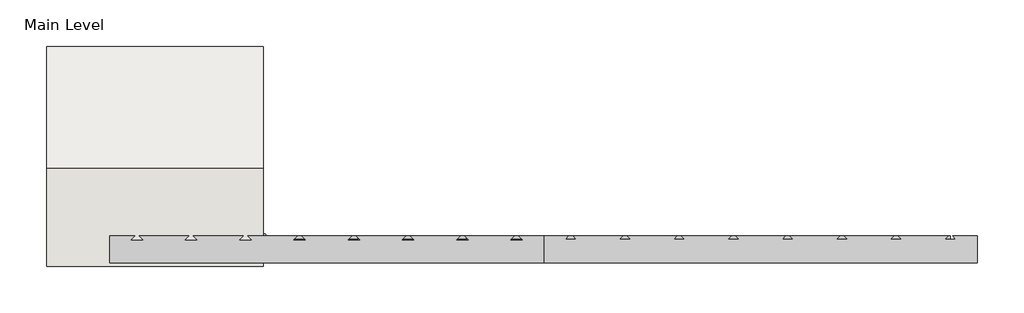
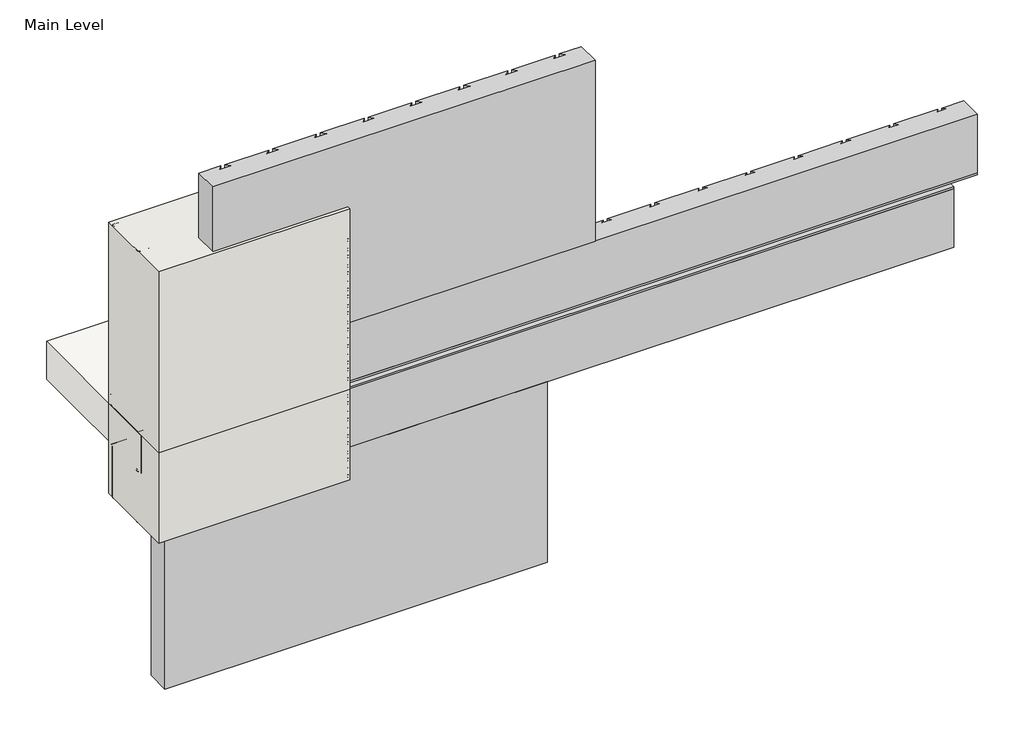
# One storey, incomplete: 28 proxies, 2 walls, 1 slab.
"""IFC4 building model written with IfcOpenShell, lengths in millimetres."""

from ifc_helpers import new_model, si_unit, frame, origin, origin_with_axes, place, context, project, spatial, polyline, outline, extrude, transform, mapped, element, save
from components import generic_models_31547c53, generic_models_0bbfdc8f, generic_models_1e1ad44f, generic_models_7dd17a53, generic_models_441de798, generic_models_e46152ee, generic_models_0b6704b8, generic_models_9cce42f9, generic_models_31d49adb, generic_models_9b5b6e1e, proxy_4c3b85e5, proxy_998bcb27, proxy_b027fc18, proxy_5fc139d0, proxy_8f7a9f0e, proxy_e2cf066e, wood_blocking_c9818c35

model = new_model("IFC4")

# Units and contexts
model_context = context("Model", 3, world=origin())
ifc_project = project(units=[si_unit("LENGTHUNIT", "METRE", prefix="MILLI")], contexts=[model_context])

# Site, building, storey
site = spatial("IfcSite", under=ifc_project)
building = spatial("IfcBuilding", under=site)
storey = spatial("IfcBuildingStorey", under=building, Name="Main Level", Elevation=0.0)

# Proxies
placement = place(None, origin())
generic_models_shape = generic_models_31547c53(model_context)
element("IfcBuildingElementProxy", 1, Name="Durabond Generic Model Sealant Vent : Durabond Generic Model Sealant Vent", ObjectType="Durabond Generic Model Sealant Vent : Durabond Generic Model Sealant Vent", at=placement, inside=storey, context=model_context, shape_type="MappedRepresentation", body=[
    mapped(generic_models_shape, transform((26865.4101773, 546.8432813, 8.5594788), x_axis=(1.0, 0.0, 0.0), y_axis=(0.0, 0.08715574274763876, -0.9961946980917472), z_axis=(0.0, 0.9961946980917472, 0.08715574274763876))),
])
generic_models_2_shape = generic_models_0bbfdc8f(model_context)
generic_models_3_shape = generic_models_1e1ad44f(model_context)
generic_models_4_shape = generic_models_7dd17a53(model_context)
generic_models_5_shape = generic_models_441de798(model_context)
element("IfcBuildingElementProxy", 2, Name="CRAi Generic Model Mesh Piece Face Based : CRAi Generic Model Mesh Piece Face Based", ObjectType="CRAi Generic Model Mesh Piece Face Based : CRAi Generic Model Mesh Piece Face Based", at=placement, inside=storey, context=model_context, shape_type="MappedRepresentation", body=[
    mapped(generic_models_2_shape, transform((26933.6726773, 541.9066297, 261.6963215), x_axis=(-1.0, 0.0, 0.0), y_axis=(0.0, 0.0, -1.0), z_axis=(0.0, -1.0, 0.0))),
    mapped(generic_models_3_shape, transform((26933.6726773, 541.9066297, 261.6963215), x_axis=(-1.0, 0.0, 0.0), y_axis=(0.0, 0.0, -1.0), z_axis=(0.0, -1.0, 0.0))),
    mapped(generic_models_4_shape, transform((26933.6726773, 541.9066297, 261.6963215), x_axis=(-1.0, 0.0, 0.0), y_axis=(0.0, 0.0, -1.0), z_axis=(0.0, -1.0, 0.0))),
    mapped(generic_models_5_shape, transform((26933.6726773, 541.9066297, 261.6963215), x_axis=(-1.0, 0.0, 0.0), y_axis=(0.0, 0.0, -1.0), z_axis=(0.0, -1.0, 0.0))),
])
generic_models_6_shape = generic_models_e46152ee(model_context)
element("IfcBuildingElementProxy", 3, Name="Durabond Generic Model Insulation Adhesive Flat : Durabond Generic Model Insulation Adhesive Flat", ObjectType="Durabond Generic Model Insulation Adhesive Flat : Durabond Generic Model Insulation Adhesive Flat", at=placement, inside=storey, context=model_context, shape_type="MappedRepresentation", body=[
    mapped(generic_models_6_shape, transform((26705.0726773, 627.6316297, 76.2), x_axis=(1.0, 0.0, 0.0), y_axis=(0.0, 1.0, 0.0), z_axis=(0.0, 0.0, 1.0))),
])
element("IfcBuildingElementProxy", 4, Name="Durabond Generic Model Insulation Adhesive Flat : Durabond Generic Model Insulation Adhesive Flat", ObjectType="Durabond Generic Model Insulation Adhesive Flat : Durabond Generic Model Insulation Adhesive Flat", at=placement, inside=storey, context=model_context, shape_type="MappedRepresentation", body=[
    mapped(generic_models_6_shape, transform((26781.2726773, 627.6316297, 76.2), x_axis=(1.0, 0.0, 0.0), y_axis=(0.0, 1.0, 0.0), z_axis=(0.0, 0.0, 1.0))),
])
element("IfcBuildingElementProxy", 5, Name="Durabond Generic Model Insulation Adhesive Flat : Durabond Generic Model Insulation Adhesive Flat", ObjectType="Durabond Generic Model Insulation Adhesive Flat : Durabond Generic Model Insulation Adhesive Flat", at=placement, inside=storey, context=model_context, shape_type="MappedRepresentation", body=[
    mapped(generic_models_6_shape, transform((26857.4726773, 627.6316297, 76.2), x_axis=(1.0, 0.0, 0.0), y_axis=(0.0, 1.0, 0.0), z_axis=(0.0, 0.0, 1.0))),
])
element("IfcBuildingElementProxy", 6, Name="Durabond Generic Model Insulation Adhesive Flat : Durabond Generic Model Insulation Adhesive Flat", ObjectType="Durabond Generic Model Insulation Adhesive Flat : Durabond Generic Model Insulation Adhesive Flat", at=placement, inside=storey, context=model_context, shape_type="MappedRepresentation", body=[
    mapped(generic_models_6_shape, transform((26933.6726773, 627.6316297, 76.2), x_axis=(1.0, 0.0, 0.0), y_axis=(0.0, 1.0, 0.0), z_axis=(0.0, 0.0, 1.0))),
])
element("IfcBuildingElementProxy", 7, Name="Durabond Generic Model Insulation Adhesive Flat : Durabond Generic Model Insulation Adhesive Flat", ObjectType="Durabond Generic Model Insulation Adhesive Flat : Durabond Generic Model Insulation Adhesive Flat", at=placement, inside=storey, context=model_context, shape_type="MappedRepresentation", body=[
    mapped(generic_models_6_shape, transform((27009.8726773, 627.6316297, 76.2), x_axis=(1.0, 0.0, 0.0), y_axis=(0.0, 1.0, 0.0), z_axis=(0.0, 0.0, 1.0))),
])
element("IfcBuildingElementProxy", 8, Name="Durabond Generic Model Insulation Adhesive Flat : Durabond Generic Model Insulation Adhesive Flat", ObjectType="Durabond Generic Model Insulation Adhesive Flat : Durabond Generic Model Insulation Adhesive Flat", at=placement, inside=storey, context=model_context, shape_type="MappedRepresentation", body=[
    mapped(generic_models_6_shape, transform((27086.0726773, 627.6316297, 76.2), x_axis=(1.0, 0.0, 0.0), y_axis=(0.0, 1.0, 0.0), z_axis=(0.0, 0.0, 1.0))),
])
generic_models_7_shape = generic_models_0b6704b8(model_context)
element("IfcBuildingElementProxy", 9, Name="Durabond Generic Model Insulation Adhesive Flat : Durabond Generic Model Insulation Adhesive Flat", ObjectType="Durabond Generic Model Insulation Adhesive Flat : Durabond Generic Model Insulation Adhesive Flat", at=placement, inside=storey, context=model_context, shape_type="MappedRepresentation", body=[
    mapped(generic_models_7_shape, transform((26705.0726773, 627.6316297, -304.8), x_axis=(1.0, 0.0, 0.0), y_axis=(0.0, 1.0, 0.0), z_axis=(0.0, 0.0, 1.0))),
])
element("IfcBuildingElementProxy", 10, Name="Durabond Generic Model Insulation Adhesive Flat : Durabond Generic Model Insulation Adhesive Flat", ObjectType="Durabond Generic Model Insulation Adhesive Flat : Durabond Generic Model Insulation Adhesive Flat", at=placement, inside=storey, context=model_context, shape_type="MappedRepresentation", body=[
    mapped(generic_models_7_shape, transform((26781.2726773, 627.6316297, -304.8), x_axis=(1.0, 0.0, 0.0), y_axis=(0.0, 1.0, 0.0), z_axis=(0.0, 0.0, 1.0))),
])
element("IfcBuildingElementProxy", 11, Name="Durabond Generic Model Insulation Adhesive Flat : Durabond Generic Model Insulation Adhesive Flat", ObjectType="Durabond Generic Model Insulation Adhesive Flat : Durabond Generic Model Insulation Adhesive Flat", at=placement, inside=storey, context=model_context, shape_type="MappedRepresentation", body=[
    mapped(generic_models_7_shape, transform((26857.4726773, 627.6316297, -304.8), x_axis=(1.0, 0.0, 0.0), y_axis=(0.0, 1.0, 0.0), z_axis=(0.0, 0.0, 1.0))),
])
element("IfcBuildingElementProxy", 12, Name="Durabond Generic Model Insulation Adhesive Flat : Durabond Generic Model Insulation Adhesive Flat", ObjectType="Durabond Generic Model Insulation Adhesive Flat : Durabond Generic Model Insulation Adhesive Flat", at=placement, inside=storey, context=model_context, shape_type="MappedRepresentation", body=[
    mapped(generic_models_7_shape, transform((26933.6726773, 627.6316297, -304.8), x_axis=(1.0, 0.0, 0.0), y_axis=(0.0, 1.0, 0.0), z_axis=(0.0, 0.0, 1.0))),
])
element("IfcBuildingElementProxy", 13, Name="Durabond Generic Model Insulation Adhesive Flat : Durabond Generic Model Insulation Adhesive Flat", ObjectType="Durabond Generic Model Insulation Adhesive Flat : Durabond Generic Model Insulation Adhesive Flat", at=placement, inside=storey, context=model_context, shape_type="MappedRepresentation", body=[
    mapped(generic_models_7_shape, transform((27009.8726773, 627.6316297, -304.8), x_axis=(1.0, 0.0, 0.0), y_axis=(0.0, 1.0, 0.0), z_axis=(0.0, 0.0, 1.0))),
])
element("IfcBuildingElementProxy", 14, Name="Durabond Generic Model Insulation Adhesive Flat : Durabond Generic Model Insulation Adhesive Flat", ObjectType="Durabond Generic Model Insulation Adhesive Flat : Durabond Generic Model Insulation Adhesive Flat", at=placement, inside=storey, context=model_context, shape_type="MappedRepresentation", body=[
    mapped(generic_models_7_shape, transform((27086.0726773, 627.6316297, -304.8), x_axis=(1.0, 0.0, 0.0), y_axis=(0.0, 1.0, 0.0), z_axis=(0.0, 0.0, 1.0))),
])
element("IfcBuildingElementProxy", 15, Name="Durabond Generic Model Insulation Adhesive Flat : Durabond Generic Model Insulation Adhesive Flat", ObjectType="Durabond Generic Model Insulation Adhesive Flat : Durabond Generic Model Insulation Adhesive Flat", at=placement, inside=storey, context=model_context, shape_type="MappedRepresentation", body=[
    mapped(generic_models_7_shape, transform((26628.8726773, 627.6316297, -304.8), x_axis=(1.0, 0.0, 0.0), y_axis=(0.0, 1.0, 0.0), z_axis=(0.0, 0.0, 1.0))),
])
generic_models_8_shape = generic_models_9cce42f9(model_context)
generic_models_9_shape = generic_models_31d49adb(model_context)
generic_models_10_shape = generic_models_9b5b6e1e(model_context)
element("IfcBuildingElementProxy", 16, Name="CRAi Generic Model Mesh Piece Face Based : CRAi Generic Model Mesh Piece Face Based", ObjectType="CRAi Generic Model Mesh Piece Face Based : CRAi Generic Model Mesh Piece Face Based", at=placement, inside=storey, context=model_context, shape_type="MappedRepresentation", body=[
    mapped(generic_models_8_shape, transform((26933.6726773, 541.9066297, -153.2314536), x_axis=(-1.0, 0.0, 0.0), y_axis=(0.0, 0.0, -1.0), z_axis=(0.0, -1.0, 0.0))),
    mapped(generic_models_9_shape, transform((26933.6726773, 541.9066297, -153.2314536), x_axis=(-1.0, 0.0, 0.0), y_axis=(0.0, 0.0, -1.0), z_axis=(0.0, -1.0, 0.0))),
    mapped(generic_models_10_shape, transform((26933.6726773, 541.9066297, -153.2314536), x_axis=(-1.0, 0.0, 0.0), y_axis=(0.0, 0.0, -1.0), z_axis=(0.0, -1.0, 0.0))),
])
proxy_shape = proxy_4c3b85e5(model_context)
element("IfcBuildingElementProxy", 17, Name="Durabond Generic Model Flexlite Boundary Board : 3\"", ObjectType="Durabond Generic Model Flexlite Boundary Board : 3\"", at=placement, inside=storey, context=model_context, shape_type="MappedRepresentation", body=[
    mapped(proxy_shape, transform((27809.9726773, 624.4566297, -100.0879072), x_axis=(-1.0, 0.0, 0.0), y_axis=(0.0, 0.0, -1.0), z_axis=(0.0, -1.0, 0.0))),
])
proxy_2_shape = proxy_998bcb27(model_context)
element("IfcBuildingElementProxy", 18, Name="Durabond Generic Model Flexlite Insulation Board : 3\"", ObjectType="Durabond Generic Model Flexlite Insulation Board : 3\"", at=placement, inside=storey, context=model_context, shape_type="MappedRepresentation", body=[
    mapped(proxy_2_shape, transform((27276.5726773, 624.4566297, 523.392643), x_axis=(1.0, 0.0, 0.0), y_axis=(0.0, 0.0, 1.0), z_axis=(0.0, -1.0, 0.0))),
])
element("IfcBuildingElementProxy", 19, Name="Durabond Generic Model Flexlite Insulation Board : 3\"", ObjectType="Durabond Generic Model Flexlite Insulation Board : 3\"", at=placement, inside=storey, context=model_context, shape_type="MappedRepresentation", body=[
    mapped(proxy_2_shape, transform((27124.1726773, 624.4566297, -506.4879072), x_axis=(1.0, 0.0, 0.0), y_axis=(0.0, 0.0, 1.0), z_axis=(0.0, -1.0, 0.0))),
])
proxy_3_shape = proxy_b027fc18(model_context)
element("IfcBuildingElementProxy", 20, Name="Durabond Generic Model Flexlite Vent Board : 3\"", ObjectType="Durabond Generic Model Flexlite Vent Board : 3\"", at=placement, inside=storey, context=model_context, shape_type="MappedRepresentation", body=[
    mapped(proxy_3_shape, transform((27886.1726773, 624.4566297, 116.992643), x_axis=(1.0, 0.0, 0.0), y_axis=(0.0, 0.0, 1.0), z_axis=(0.0, -1.0, 0.0))),
])
proxy_4_shape = proxy_5fc139d0(model_context)
element("IfcBuildingElementProxy", 21, Name="Durabond Generic Model Barrier Seam Tape Straight : 4\" Barrier Seam Tape", ObjectType="Durabond Generic Model Barrier Seam Tape Straight : 4\" Barrier Seam Tape", at=placement, inside=storey, context=model_context, shape_type="MappedRepresentation", body=[
    mapped(proxy_4_shape, transform((26514.5726773, 633.1878797, 50.8), x_axis=(0.0, 0.0, 1.0), y_axis=(0.0, -1.0, 0.0), z_axis=(1.0, 0.0, 0.0))),
])
element("IfcBuildingElementProxy", 22, Name="Durabond Generic Model Barrier Seam Tape Straight : 4\" Barrier Seam Tape", ObjectType="Durabond Generic Model Barrier Seam Tape Straight : 4\" Barrier Seam Tape", at=placement, inside=storey, context=model_context, shape_type="MappedRepresentation", body=[
    mapped(proxy_4_shape, transform((26514.5726773, 633.1878797, -76.2), x_axis=(0.0, 0.0, 1.0), y_axis=(0.0, -1.0, 0.0), z_axis=(1.0, 0.0, 0.0))),
])
proxy_5_shape = proxy_8f7a9f0e(model_context)
element("IfcBuildingElementProxy", 23, Name="CRAi Generic Model Metal Stud : Metal Framing Stud - 1\" x 3.5\"", ObjectType="CRAi Generic Model Metal Stud : Metal Framing Stud - 1\" x 3.5\"", at=placement, inside=storey, context=model_context, shape_type="MappedRepresentation", body=[
    mapped(proxy_5_shape, transform((26508.2226773, 726.0566297, 0.0), x_axis=(-1.0, 0.0, 0.0), y_axis=(0.0, -1.0, 0.0), z_axis=(0.0, 0.0, 1.0))),
])
element("IfcBuildingElementProxy", 24, Name="CRAi Generic Model Metal Stud : Metal Framing Stud - 1\" x 3.5\"", ObjectType="CRAi Generic Model Metal Stud : Metal Framing Stud - 1\" x 3.5\"", at=placement, inside=storey, context=model_context, shape_type="MappedRepresentation", body=[
    mapped(proxy_5_shape, transform((26914.6226773, 726.0566297, 0.0), x_axis=(-1.0, 0.0, 0.0), y_axis=(0.0, -1.0, 0.0), z_axis=(0.0, 0.0, 1.0))),
])
proxy_6_shape = proxy_e2cf066e(model_context)
element("IfcBuildingElementProxy", 25, Name="CRAi Generic Model Metal Stud : Metal Framing Stud - 1\" x 3.5\"", ObjectType="CRAi Generic Model Metal Stud : Metal Framing Stud - 1\" x 3.5\"", at=placement, inside=storey, context=model_context, shape_type="MappedRepresentation", body=[
    mapped(proxy_6_shape, transform((26508.2226773, 726.0566297, 0.0), x_axis=(-1.0, 0.0, 0.0), y_axis=(0.0, -1.0, 0.0), z_axis=(0.0, 0.0, 1.0))),
])
element("IfcBuildingElementProxy", 26, Name="CRAi Generic Model Metal Stud : Metal Framing Stud - 1\" x 3.5\"", ObjectType="CRAi Generic Model Metal Stud : Metal Framing Stud - 1\" x 3.5\"", at=placement, inside=storey, context=model_context, shape_type="MappedRepresentation", body=[
    mapped(proxy_6_shape, transform((26914.6226773, 726.0566297, 0.0), x_axis=(-1.0, 0.0, 0.0), y_axis=(0.0, -1.0, 0.0), z_axis=(0.0, 0.0, 1.0))),
])
wood_blocking_shape = wood_blocking_c9818c35(model_context)
element("IfcBuildingElementProxy", 27, Name="CRAi Generic Model Line Based Metal Framing Track : Wood Blocking", ObjectType="CRAi Generic Model Line Based Metal Framing Track : Wood Blocking", at=placement, inside=storey, context=model_context, shape_type="MappedRepresentation", body=[
    mapped(wood_blocking_shape, transform((26489.1726773, 649.8566297, 0.0), x_axis=(1.0, 0.0, 0.0), y_axis=(0.0, 1.0, 0.0), z_axis=(0.0, 0.0, 1.0))),
])
element("IfcBuildingElementProxy", 28, Name="CRAi Generic Model Line Based Metal Framing Track : Wood Blocking", ObjectType="CRAi Generic Model Line Based Metal Framing Track : Wood Blocking", at=placement, inside=storey, context=model_context, shape_type="MappedRepresentation", body=[
    mapped(wood_blocking_shape, transform((26489.1726773, 802.2566297, -127.0), x_axis=(1.0, 0.0, 0.0), y_axis=(0.0, -1.0, 0.0), z_axis=(0.0, 0.0, -1.0))),
])

# Slab
element("IfcSlab", 29, ObjectType="CRAi Concrete Floor", at=placement, inside=storey, context=model_context, shape_type="SweptSolid", body=[
    extrude(outline(polyline([(27098.7726773, 633.9816297), (26489.1726773, 633.9816297), (26489.1726773, 1157.8566297), (27098.7726773, 1157.8566297), (27098.7726773, 633.9816297)])), frame((0.0, 0.0, -127.0), z_axis=(0.0, 0.0, 1.0), x_axis=(1.0, 0.0, 0.0)), (0.0, 0.0, 1.0), 127.0),
])

# Walls
element("IfcWall", 30, ObjectType="189mm (7.5”) EIFS Field Applied on Mtl. Stud Layer - 50mm Grooved Insulation Board Metal Stud Wall (AirStop)", at=placement, inside=storey, context=model_context, shape_type="SweptSolid", body=[
    extrude(outline(polyline([(27098.7726773, 538.7316297), (26489.1726773, 538.7316297), (26489.1726773, 814.9566297), (27098.7726773, 814.9566297), (27098.7726773, 538.7316297)])), origin_with_axes(), (0.0, 0.0, 1.0), 609.6),
])
element("IfcWall", 31, ObjectType="189mm (7.5”) EIFS Field Applied on Mtl. Stud Layer - 50mm Grooved Insulation Board Metal Stud Wall (AirStop)", at=placement, inside=storey, context=model_context, shape_type="SweptSolid", body=[
    extrude(outline(polyline([(27098.7726773, 538.7316297), (26489.1726773, 538.7316297), (26489.1726773, 814.9566297), (27098.7726773, 814.9566297), (27098.7726773, 538.7316297)])), frame((0.0, 0.0, -304.8), z_axis=(0.0, 0.0, 1.0), x_axis=(1.0, 0.0, 0.0)), (0.0, 0.0, 1.0), 304.8),
])

save(model, "model.ifc")
